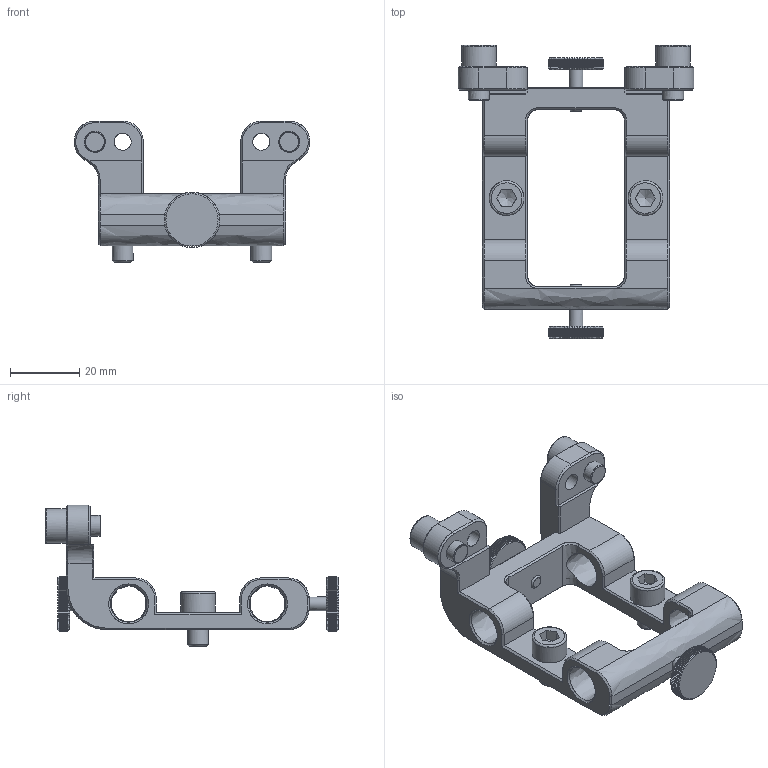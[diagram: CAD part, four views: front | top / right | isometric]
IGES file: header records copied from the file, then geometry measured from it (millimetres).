
Global section: file name: Y:\_LCPD Drawings\13.1 Lightweight Models\9936\LA-9936-0604 90 DEGREE TRANSCEIVER BRACKET\LA-9936-0604-A 90 DEGREE TRANSCEIVER BRACKET.igs; native system: NX V1926; preprocessor: SIEMENS PLM Software NX 1942; date: 20210406.121436; units: millimetre
Bounding box: 67.99 x 84.5 x 40.9 mm (x, y, z)
Surface area: 15313 mm2 (no closed solid volume)
Topology: 0 solids, 0 shells, 1214 faces, 5789 edges, 5752 vertices
Faces by surface type: bspline 1214
